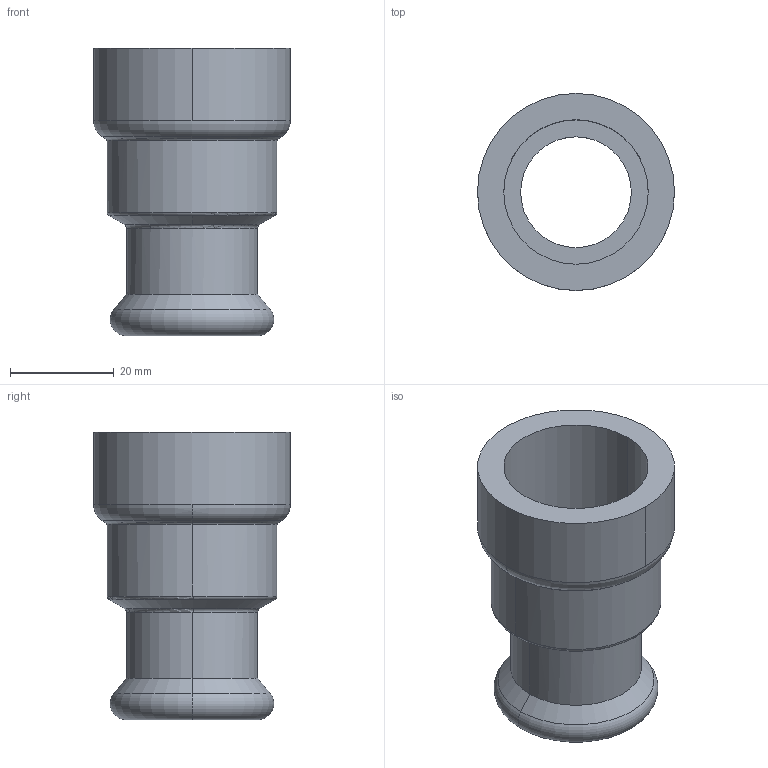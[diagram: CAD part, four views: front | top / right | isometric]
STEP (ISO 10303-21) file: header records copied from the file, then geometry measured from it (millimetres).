
FILE_DESCRIPTION(('Creo Elements/Direct Modeling STEP Export'),'2;1');
FILE_NAME('C9441_3-4_22.stp','2020-07-20T13:50:52',(''),(''),'PTC Creo Elements/Direct Modeling STEP processor for AP214 (Solid Model)','PTC Creo Elements/Direct Modeling 19.0C 15-Aug-2015 (C) Parametric Technology GmbH','');
FILE_SCHEMA(('AUTOMOTIVE_DESIGN { 1 0 10303 214 1 1 1 1 }'));
Length unit declared in the file: millimetre
Products named in the file (2): C9441_3-4_22
Assembly tree (1 placements, depth 2):
  C9441_3-4_22
    C9441_3-4_22
Bounding box: 37.9 x 37.9 x 55.28 mm (x, y, z)
Volume: 16618.6 mm3; surface area: 11412 mm2
Topology: 1 solids, 1 shells, 32 faces, 77 edges, 49 vertices
Faces by surface type: cylinder 12, torus 10, cone 6, plane 4
Entity records: 858 total; most frequent: ORIENTED_EDGE 154, DIRECTION 142, CARTESIAN_POINT 129, EDGE_CURVE 77, AXIS2_PLACEMENT_3D 62, VERTEX_POINT 49, EDGE_LOOP 36, FACE_OUTER_BOUND 32
